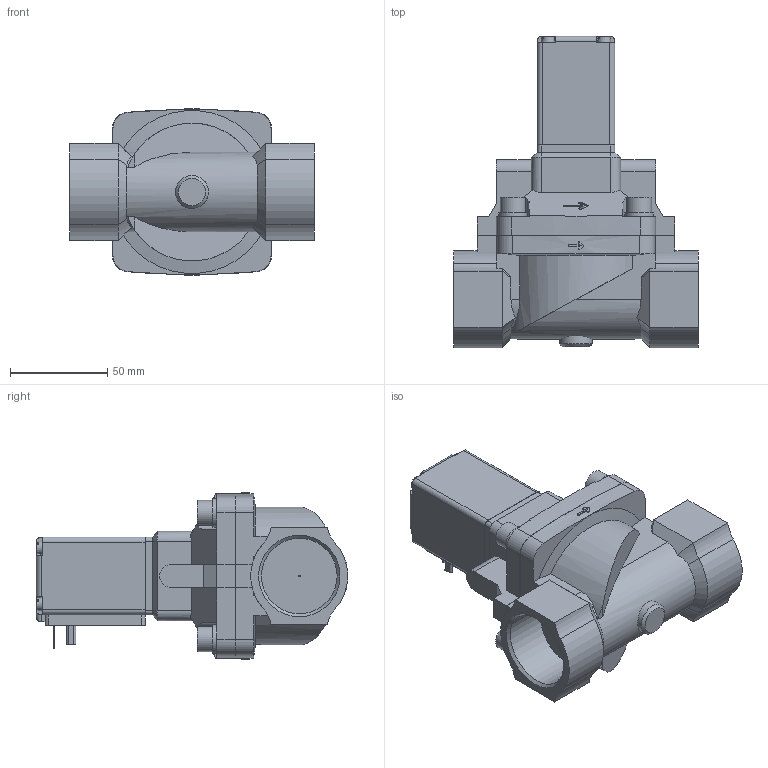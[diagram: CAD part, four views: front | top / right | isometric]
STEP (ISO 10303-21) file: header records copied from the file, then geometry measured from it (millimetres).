
FILE_DESCRIPTION(/* description */ ('STEP AP214'),/* implementation_level */ '2;1');
FILE_NAME(/* name */ '5404-085340-Servo-assisted_2_2_way_piston_valve',/* time_stamp */ '2024-02-29T14:41:07+01:00',/* author */ ('License CC BY-ND 4.0'),/* organization */ ('CADENAS'),/* preprocessor_version */ 'ST-DEVELOPER v19.3',/* originating_system */ 'PARTsolutions',/* authorisation */ ' ');
FILE_SCHEMA (('AUTOMOTIVE_DESIGN {1 0 10303 214 3 1 1}'));
Length unit declared in the file: millimetre
Products named in the file (4): 5404-085340-Servo-assisted 2/2 way piston valve; 5282g-8732MS000-2/2-Wege-Magnetventil_Gehaeuse; 5282d-32MSAZ4_ON-2/2-Wege-Magnetventil_Deckel; 6213sp 40 Kein 40
Assembly tree (3 placements, depth 2):
  5404-085340-Servo-assisted 2/2 way piston valve
    5282g-8732MS000-2/2-Wege-Magnetventil_Gehaeuse
    5282d-32MSAZ4_ON-2/2-Wege-Magnetventil_Deckel
    6213sp 40 Kein 40
Bounding box: 126 x 160.42 x 86 mm (x, y, z)
Volume: 547915.2 mm3; surface area: 81484.8 mm2
Topology: 3 solids, 3 shells, 314 faces, 823 edges, 537 vertices
Faces by surface type: plane 191, cylinder 96, cone 27
Full cylindrical faces by diameter (mm): 1 x1, 2.45 x1, 13 x4, 14.8 x4, 17 x1, 38.952 x2
Entity records: 10386 total; most frequent: CARTESIAN_POINT 1865, DIRECTION 1624, ORIENTED_EDGE 1590, EDGE_CURVE 795, AXIS2_PLACEMENT_3D 570, VERTEX_POINT 529, LINE 484, VECTOR 484
